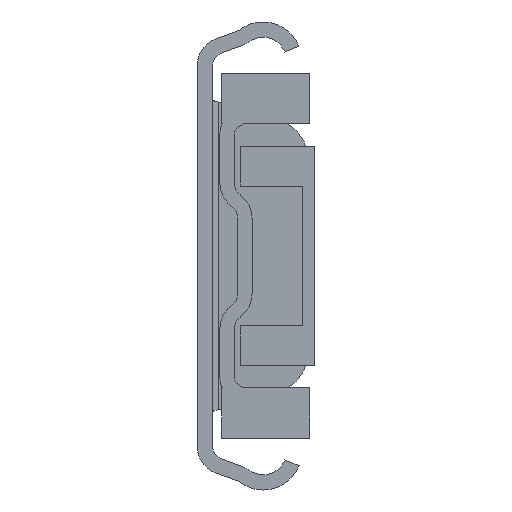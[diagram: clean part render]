
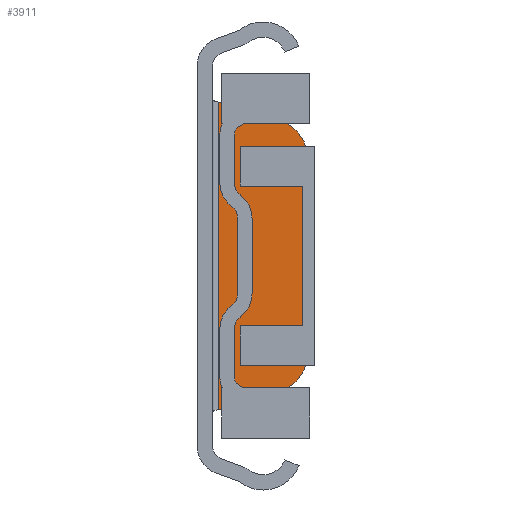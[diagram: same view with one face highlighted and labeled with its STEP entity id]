
A CAD part, front view. The second image highlights one B-rep face of the part: STEP entity #3911.
In plain terms, the highlighted planar face has unit normal (0, -1, 0).
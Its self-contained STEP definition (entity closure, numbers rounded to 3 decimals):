
#337=LINE('',#6723,#720);
#338=LINE('',#6728,#721);
#339=LINE('',#6732,#722);
#340=LINE('',#6734,#723);
#720=VECTOR('',#5567,1000.);
#721=VECTOR('',#5570,1000.);
#722=VECTOR('',#5573,1000.);
#723=VECTOR('',#5574,1000.);
#887=PLANE('',#4633);
#1739=ORIENTED_EDGE('',*,*,#2451,.F.);
#1740=ORIENTED_EDGE('',*,*,#2452,.F.);
#1741=ORIENTED_EDGE('',*,*,#2453,.F.);
#1742=ORIENTED_EDGE('',*,*,#2454,.F.);
#1743=ORIENTED_EDGE('',*,*,#2455,.F.);
#1744=ORIENTED_EDGE('',*,*,#2456,.F.);
#2451=EDGE_CURVE('',#2882,#2883,#337,.T.);
#2452=EDGE_CURVE('',#2884,#2882,#3104,.F.);
#2453=EDGE_CURVE('',#2885,#2884,#338,.T.);
#2454=EDGE_CURVE('',#2886,#2885,#3105,.F.);
#2455=EDGE_CURVE('',#2887,#2886,#339,.T.);
#2456=EDGE_CURVE('',#2883,#2887,#340,.T.);
#2882=VERTEX_POINT('',#6724);
#2883=VERTEX_POINT('',#6725);
#2884=VERTEX_POINT('',#6727);
#2885=VERTEX_POINT('',#6729);
#2886=VERTEX_POINT('',#6731);
#2887=VERTEX_POINT('',#6733);
#3104=CIRCLE('',#4634,8.);
#3105=CIRCLE('',#4635,8.);
#3341=EDGE_LOOP('',(#1739,#1740,#1741,#1742,#1743,#1744));
#3602=FACE_BOUND('',#3341,.T.);
#3911=ADVANCED_FACE('',(#3602),#887,.T.);
#4633=AXIS2_PLACEMENT_3D('',#6722,#5565,#5566);
#4634=AXIS2_PLACEMENT_3D('',#6726,#5568,#5569);
#4635=AXIS2_PLACEMENT_3D('',#6730,#5571,#5572);
#5565=DIRECTION('',(0.,-1.,0.));
#5566=DIRECTION('',(0.,0.,-1.));
#5567=DIRECTION('',(-0.966,0.,-0.259));
#5568=DIRECTION('',(0.,-1.,0.));
#5569=DIRECTION('',(0.,0.,-1.));
#5570=DIRECTION('',(0.,0.,-1.));
#5571=DIRECTION('',(0.,-1.,0.));
#5572=DIRECTION('',(0.,0.,-1.));
#5573=DIRECTION('',(0.966,0.,-0.259));
#5574=DIRECTION('',(0.,0.,1.));
#6722=CARTESIAN_POINT('',(12.9,911.9,14.965));
#6723=CARTESIAN_POINT('',(22.316,911.9,-20.174));
#6724=CARTESIAN_POINT('',(12.471,911.9,-22.812));
#6725=CARTESIAN_POINT('',(3.5,911.9,-25.216));
#6726=CARTESIAN_POINT('',(10.4,911.9,-15.085));
#6727=CARTESIAN_POINT('',(18.4,911.9,-15.085));
#6728=CARTESIAN_POINT('',(18.4,911.9,14.965));
#6729=CARTESIAN_POINT('',(18.4,911.9,15.085));
#6730=CARTESIAN_POINT('',(10.4,911.9,15.085));
#6731=CARTESIAN_POINT('',(12.471,911.9,22.812));
#6732=CARTESIAN_POINT('',(14.833,911.9,22.179));
#6733=CARTESIAN_POINT('',(3.5,911.9,25.216));
#6734=CARTESIAN_POINT('',(3.5,911.9,-25.766));
